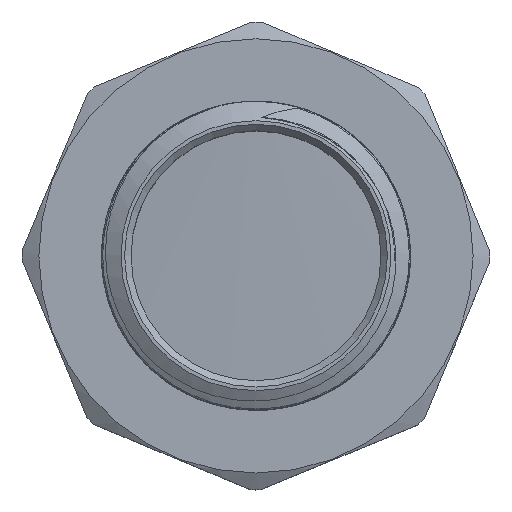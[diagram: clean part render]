
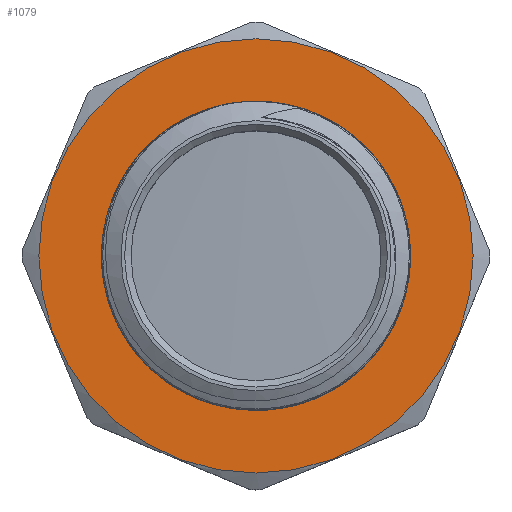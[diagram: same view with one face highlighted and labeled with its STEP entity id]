
A CAD part, top view. The second image highlights one B-rep face of the part: STEP entity #1079.
In plain terms, the highlighted planar face has unit normal (0, 0, 1).
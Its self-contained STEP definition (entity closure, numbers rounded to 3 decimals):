
#16=FACE_BOUND('',#224,.T.);
#26=PLANE('',#1185);
#68=CIRCLE('',#1117,12.055);
#69=CIRCLE('',#1119,12.055);
#73=CIRCLE('',#1135,16.937);
#102=CIRCLE('',#1180,12.055);
#162=FACE_OUTER_BOUND('',#223,.T.);
#223=EDGE_LOOP('',(#932));
#224=EDGE_LOOP('',(#933,#934,#935,#936,#937));
#288=B_SPLINE_CURVE_WITH_KNOTS('',3,(#4262,#4263,#4264,#4265),
 .UNSPECIFIED.,.F.,.F.,(4,4),(0.388,0.42),
 .UNSPECIFIED.);
#330=LINE('',#6213,#378);
#378=VECTOR('',#1383,10.);
#396=VERTEX_POINT('',#1485);
#397=VERTEX_POINT('',#1487);
#400=VERTEX_POINT('',#1525);
#430=VERTEX_POINT('',#2478);
#482=VERTEX_POINT('',#4257);
#488=VERTEX_POINT('',#6209);
#509=EDGE_CURVE('',#397,#396,#68,.T.);
#512=EDGE_CURVE('',#396,#400,#69,.T.);
#555=EDGE_CURVE('',#430,#430,#73,.T.);
#616=EDGE_CURVE('',#397,#482,#288,.T.);
#638=EDGE_CURVE('',#482,#488,#102,.T.);
#640=EDGE_CURVE('',#488,#400,#330,.T.);
#932=ORIENTED_EDGE('',*,*,#555,.T.);
#933=ORIENTED_EDGE('',*,*,#616,.T.);
#934=ORIENTED_EDGE('',*,*,#638,.T.);
#935=ORIENTED_EDGE('',*,*,#640,.T.);
#936=ORIENTED_EDGE('',*,*,#512,.F.);
#937=ORIENTED_EDGE('',*,*,#509,.F.);
#1079=ADVANCED_FACE('',(#162,#16),#26,.T.);
#1117=AXIS2_PLACEMENT_3D('',#1504,#1222,#1223);
#1119=AXIS2_PLACEMENT_3D('',#1526,#1227,#1228);
#1135=AXIS2_PLACEMENT_3D('',#2479,#1271,#1272);
#1180=AXIS2_PLACEMENT_3D('',#6210,#1378,#1379);
#1185=AXIS2_PLACEMENT_3D('',#7867,#1391,#1392);
#1222=DIRECTION('center_axis',(0.,0.,1.));
#1223=DIRECTION('ref_axis',(1.,0.,0.));
#1227=DIRECTION('center_axis',(0.,0.,1.));
#1228=DIRECTION('ref_axis',(1.,0.,0.));
#1271=DIRECTION('center_axis',(0.,0.,1.));
#1272=DIRECTION('ref_axis',(0.,1.,0.));
#1378=DIRECTION('center_axis',(0.,0.,-1.));
#1379=DIRECTION('ref_axis',(0.,-1.,0.));
#1383=DIRECTION('',(0.342,-0.94,0.));
#1391=DIRECTION('center_axis',(0.,0.,1.));
#1392=DIRECTION('ref_axis',(1.,0.,0.));
#1485=CARTESIAN_POINT('',(0.,12.055,19.996));
#1487=CARTESIAN_POINT('',(-7.498,9.439,19.996));
#1504=CARTESIAN_POINT('Origin',(0.,0.,19.996));
#1525=CARTESIAN_POINT('',(-4.123,11.328,19.996));
#1526=CARTESIAN_POINT('Origin',(0.,0.,19.996));
#2478=CARTESIAN_POINT('',(0.,-16.937,19.996));
#2479=CARTESIAN_POINT('Origin',(0.,0.,19.996));
#4257=CARTESIAN_POINT('',(-7.746,9.238,19.996));
#4262=CARTESIAN_POINT('Ctrl Pts',(-7.498,9.438,19.996));
#4263=CARTESIAN_POINT('Ctrl Pts',(-7.581,9.372,19.996));
#4264=CARTESIAN_POINT('Ctrl Pts',(-7.664,9.305,19.996));
#4265=CARTESIAN_POINT('Ctrl Pts',(-7.746,9.237,19.996));
#6209=CARTESIAN_POINT('',(-4.123,11.328,19.996));
#6210=CARTESIAN_POINT('Origin',(0.,0.,19.996));
#6213=CARTESIAN_POINT('',(-0.051,0.141,19.996));
#7867=CARTESIAN_POINT('Origin',(0.,-12.055,19.996));
